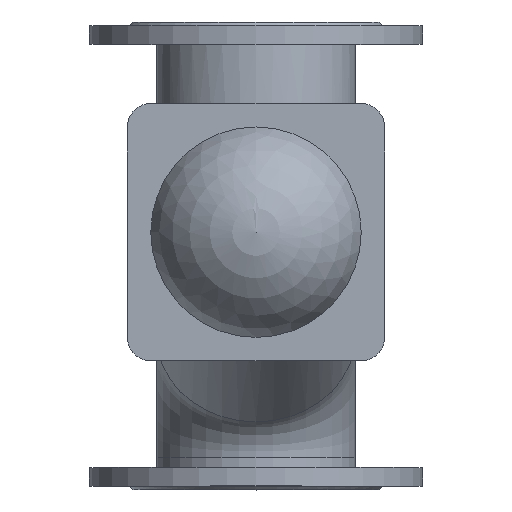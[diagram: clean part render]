
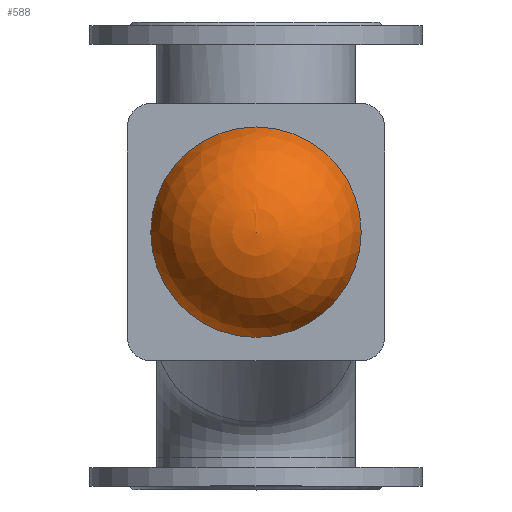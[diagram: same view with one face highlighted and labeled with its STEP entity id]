
A CAD part, top view. The second image highlights one B-rep face of the part: STEP entity #588.
In plain terms, the highlighted spherical face has radius 92.857 mm.
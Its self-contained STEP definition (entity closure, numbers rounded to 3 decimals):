
#588=ADVANCED_FACE('',(#1364),#1366,.T.);
#1364=FACE_OUTER_BOUND('',#1365,.T.);
#1365=EDGE_LOOP('',(#1741));
#1366=SPHERICAL_SURFACE('',#1367,92.857);
#1367=AXIS2_PLACEMENT_3D('',#1368,#1369,#1370);
#1368=CARTESIAN_POINT('',(0.,20.,205.143));
#1369=DIRECTION('',(0.,0.,-1.));
#1370=DIRECTION('',(0.,1.,0.));
#1741=ORIENTED_EDGE('',*,*,#1930,.T.);
#1930=EDGE_CURVE('',#2208,#2208,#2209,.F.);
#2208=VERTEX_POINT('',#3151);
#2209=CIRCLE('',#3152,90.);
#3151=CARTESIAN_POINT('',(0.,110.,228.));
#3152=AXIS2_PLACEMENT_3D('',#3153,#3154,#3155);
#3153=CARTESIAN_POINT('',(0.,20.,228.));
#3154=DIRECTION('',(0.,0.,-1.));
#3155=DIRECTION('',(0.,1.,0.));
